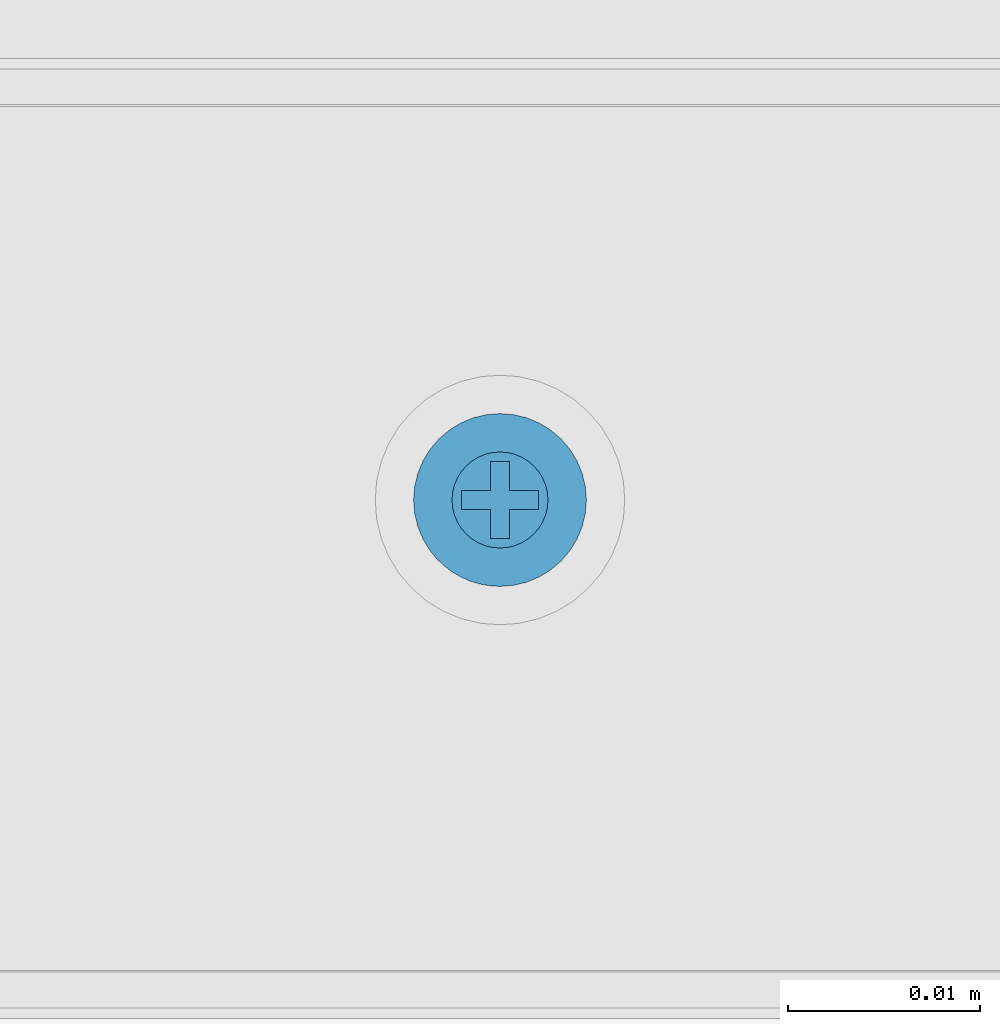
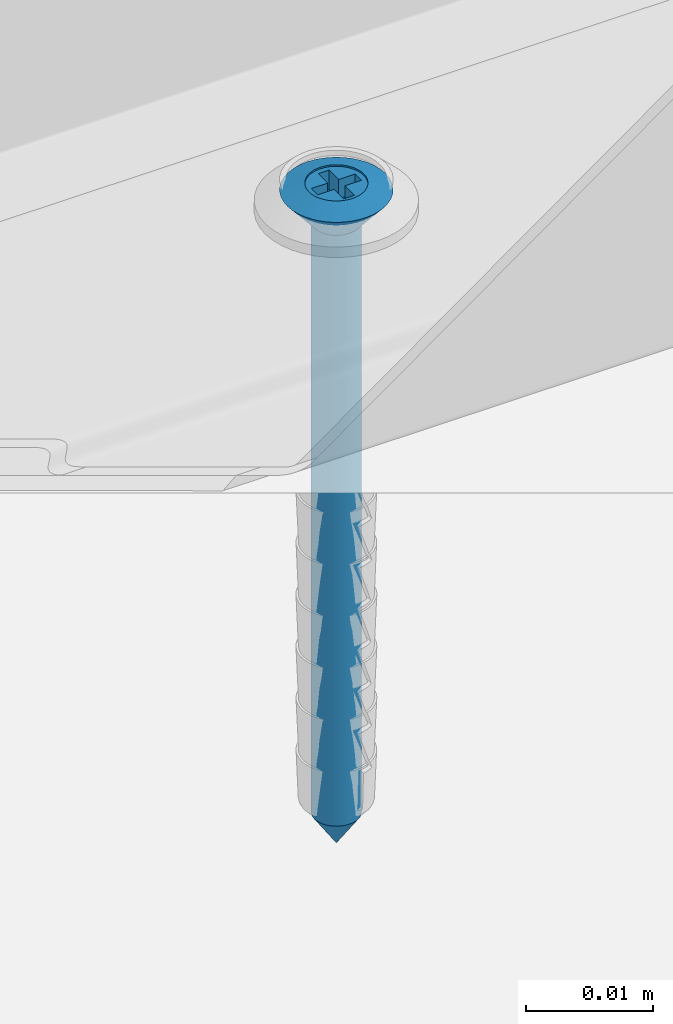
# One storey, part 38 of 38: 1 wall.
"""IFC2X3 building model written with IfcOpenShell, lengths in millimetres."""

from ifc_helpers import new_model, entity, si_unit, converted_unit, direction, frame, origin, origin_with_axes, place, context, project, spatial, faceted_brep, element, save


model = new_model("IFC2X3")

# Units and contexts
model_context = context("Model", 3, precision=1e-05, world=origin(), true_north=direction((0.0, 1.0, 0.0)))
ifc_project = project(units=[si_unit("LENGTHUNIT", "METRE", prefix="MILLI"), si_unit("AREAUNIT", "SQUARE_METRE"), si_unit("VOLUMEUNIT", "CUBIC_METRE"), converted_unit("PLANEANGLEUNIT", "DEGREE", entity("IfcPlaneAngleMeasure", 0.01745), si_unit("PLANEANGLEUNIT", "RADIAN"), dimensions=[0, 0, 0, 0, 0, 0, 0]), si_unit("SOLIDANGLEUNIT", "STERADIAN"), si_unit("MASSUNIT", "GRAM"), si_unit("TIMEUNIT", "SECOND"), si_unit("THERMODYNAMICTEMPERATUREUNIT", "DEGREE_CELSIUS"), si_unit("LUMINOUSINTENSITYUNIT", "LUMEN")], contexts=[model_context])

# Site, building, storey
site_placement = place(None, origin_with_axes())
site = spatial("IfcSite", under=ifc_project, at=site_placement, Name="Default Site", CompositionType="ELEMENT")
building_placement = place(site_placement, origin_with_axes())
building = spatial("IfcBuilding", under=site, at=building_placement, Name="Default Building", CompositionType="ELEMENT")
storey_placement = place(building_placement, origin_with_axes())
storey = spatial("IfcBuildingStorey", under=building, at=storey_placement, Name="Default Building Storey", CompositionType="ELEMENT", Elevation=0.0)

# Wall
wall_placement = place(storey_placement, frame((5002.45437008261, 5452.424146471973, 8.390395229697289), z_axis=(7.620176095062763e-14, -6.858158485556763e-13, 1.0), x_axis=(1.0, -9.714451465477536e-17, -7.620176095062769e-14)))
element("IfcWall", 1, at=wall_placement, inside=storey, Name="Kołek rozporowy min. fi 6", context=model_context, shape_type="Brep", body=[
    faceted_brep([(-1438.31414949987, -3453.283223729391, -0.4642567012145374), (-1435.814149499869, -3453.283223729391, -3.464256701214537), (-1435.78952618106, -3452.97035479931, -3.464256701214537), (-1438.258747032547, -3452.57926863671, -0.4642567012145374), (-1435.71626253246, -3452.665189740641, -3.464256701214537), (-1438.093903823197, -3451.892647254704, -0.4642567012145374), (-1435.596162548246, -3452.375242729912, -3.464256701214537), (-1437.823678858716, -3451.240266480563, -0.4642567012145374), (-1435.432183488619, -3452.107653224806, -3.464256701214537), (-1437.454725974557, -3450.638190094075, -0.4642567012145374), (-1435.228363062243, -3451.869010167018, -3.464256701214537), (-1436.996130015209, -3450.101243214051, -0.4642567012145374), (-1434.989720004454, -3451.665189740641, -3.464256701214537), (-1436.459183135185, -3449.642647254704, -0.4642567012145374), (-1434.722130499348, -3451.501210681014, -3.464256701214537), (-1435.857106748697, -3449.273694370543, -0.4642567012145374), (-1434.432183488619, -3451.381110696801, -3.464256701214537), (-1435.204725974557, -3449.003469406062, -0.4642567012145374), (-1434.12701842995, -3451.307847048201, -3.464256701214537), (-1434.51810459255, -3448.838626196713, -0.4642567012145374), (-1433.814149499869, -3451.283223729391, -3.464256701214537), (-1433.814149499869, -3448.783223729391, -0.4642567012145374), (-1433.501280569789, -3451.307847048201, -3.464256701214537), (-1433.110194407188, -3448.838626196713, -0.4642567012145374), (-1433.19611551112, -3451.381110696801, -3.464256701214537), (-1432.423573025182, -3449.003469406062, -0.4642567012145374), (-1432.906168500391, -3451.501210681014, -3.464256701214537), (-1431.771192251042, -3449.273694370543, -0.4642567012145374), (-1432.638578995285, -3451.665189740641, -3.464256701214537), (-1431.169115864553, -3449.642647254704, -0.4642567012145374), (-1432.399935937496, -3451.869010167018, -3.464256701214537), (-1430.63216898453, -3450.101243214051, -0.4642567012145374), (-1432.196115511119, -3452.107653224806, -3.464256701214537), (-1430.173573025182, -3450.638190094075, -0.4642567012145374), (-1432.032136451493, -3452.375242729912, -3.464256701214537), (-1429.804620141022, -3451.240266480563, -0.4642567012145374), (-1431.912036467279, -3452.665189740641, -3.464256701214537), (-1429.534395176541, -3451.892647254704, -0.4642567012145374), (-1431.838772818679, -3453.596092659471, -3.464256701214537), (-1429.369551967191, -3453.987178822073, -0.4642567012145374), (-1429.314149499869, -3453.283223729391, -0.4642567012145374), (-1431.81414949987, -3453.283223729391, -3.464256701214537), (-1429.369551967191, -3452.57926863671, -0.4642567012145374), (-1431.838772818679, -3452.97035479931, -3.464256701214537), (-1431.912036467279, -3453.901257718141, -3.464256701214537), (-1429.534395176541, -3454.673800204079, -0.4642567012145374), (-1432.032136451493, -3454.19120472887, -3.464256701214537), (-1429.804620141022, -3455.326180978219, -0.4642567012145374), (-1432.196115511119, -3454.458794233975, -3.464256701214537), (-1430.173573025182, -3455.928257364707, -0.4642567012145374), (-1432.399935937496, -3454.697437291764, -3.464256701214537), (-1430.63216898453, -3456.465204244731, -0.4642567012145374), (-1432.638578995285, -3454.901257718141, -3.464256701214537), (-1431.169115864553, -3456.923800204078, -0.4642567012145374), (-1432.906168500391, -3455.065236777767, -3.464256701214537), (-1431.771192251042, -3457.292753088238, -0.4642567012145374), (-1433.19611551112, -3455.185336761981, -3.464256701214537), (-1432.423573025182, -3457.562978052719, -0.4642567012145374), (-1433.501280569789, -3455.258600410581, -3.464256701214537), (-1433.110194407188, -3457.727821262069, -0.4642567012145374), (-1433.814149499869, -3455.283223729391, -3.464256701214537), (-1433.814149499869, -3457.783223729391, -0.4642567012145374), (-1434.34306778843, -3457.752031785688, -0.4642567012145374), (-1434.12701842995, -3455.258600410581, -3.464256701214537), (-1434.432183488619, -3455.185336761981, -3.464256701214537), (-1434.864653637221, -3457.658888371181, -0.4642567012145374), (-1435.371676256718, -3457.505084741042, -0.4642567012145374), (-1434.722130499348, -3455.065236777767, -3.464256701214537), (-1435.857106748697, -3457.292753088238, -0.4642567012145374), (-1434.989720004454, -3454.901257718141, -3.464256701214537), (-1435.228363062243, -3454.697437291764, -3.464256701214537), (-1436.314215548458, -3457.024836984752, -0.4642567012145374), (-1436.736665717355, -3456.705050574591, -0.4642567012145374), (-1437.11860079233, -3456.337827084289, -0.4642567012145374), (-1437.454725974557, -3455.928257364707, -0.4642567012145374), (-1435.432183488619, -3454.458794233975, -3.464256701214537), (-1435.596162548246, -3454.19120472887, -3.464256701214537), (-1437.823678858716, -3455.326180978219, -0.4642567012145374), (-1435.71626253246, -3453.901257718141, -3.464256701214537), (-1438.093903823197, -3454.673800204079, -0.4642567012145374), (-1435.78952618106, -3453.596092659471, -3.464256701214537), (-1438.258747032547, -3453.987178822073, -0.4642567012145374), (-1434.205235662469, -3455.752444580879, 0.2007375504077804), (-1433.814149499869, -3455.78322372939, 0.2007375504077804), (-1434.586691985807, -3455.660865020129, 0.2007375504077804), (-1434.949125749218, -3455.510740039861, 0.2007375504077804), (-1435.283612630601, -3455.305766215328, 0.2007375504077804), (-1435.581916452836, -3455.050990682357, 0.2007375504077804), (-1435.836691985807, -3454.752686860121, 0.2007375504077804), (-1436.04166581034, -3454.41819997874, 0.2007375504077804), (-1436.191790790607, -3454.055766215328, 0.2007375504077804), (-1436.283370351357, -3453.674309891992, 0.2007375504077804), (-1436.314149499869, -3453.283223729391, 0.2007375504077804), (-1436.283370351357, -3452.892137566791, 0.2007375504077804), (-1436.191790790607, -3452.510681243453, 0.2007375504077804), (-1436.04166581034, -3452.148247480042, 0.2007375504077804), (-1435.836691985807, -3451.81376059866, 0.200737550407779), (-1435.581916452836, -3451.515456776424, 0.2007375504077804), (-1435.283612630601, -3451.260681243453, 0.2007375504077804), (-1434.949125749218, -3451.05570741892, 0.2007375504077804), (-1434.586691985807, -3450.905582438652, 0.2007375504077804), (-1433.423063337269, -3450.814002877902, 0.2007375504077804), (-1433.814149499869, -3450.783223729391, 0.2007375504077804), (-1434.205235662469, -3450.814002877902, 0.2007375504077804), (-1433.041607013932, -3450.905582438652, 0.2007375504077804), (-1432.67917325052, -3451.05570741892, 0.2007375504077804), (-1432.344686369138, -3451.260681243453, 0.2007375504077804), (-1432.046382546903, -3451.515456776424, 0.2007375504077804), (-1431.791607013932, -3451.81376059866, 0.2007375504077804), (-1431.586633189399, -3452.148247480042, 0.2007375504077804), (-1431.436508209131, -3452.510681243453, 0.2007375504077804), (-1431.344928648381, -3452.892137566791, 0.2007375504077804), (-1431.314149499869, -3453.283223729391, 0.2007375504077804), (-1431.344928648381, -3453.674309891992, 0.2007375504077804), (-1431.436508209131, -3454.055766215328, 0.2007375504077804), (-1431.586633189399, -3454.41819997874, 0.2007375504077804), (-1431.791607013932, -3454.752686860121, 0.2007375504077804), (-1432.046382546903, -3455.050990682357, 0.2007375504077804), (-1432.344686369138, -3455.305766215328, 0.2007375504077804), (-1432.67917325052, -3455.510740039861, 0.2007375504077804), (-1433.041607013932, -3455.660865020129, 0.2007375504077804), (-1433.423063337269, -3455.752444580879, 0.2007375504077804), (-1433.814149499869, -3453.283223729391, -63.46425670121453), (-1435.789526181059, -3452.97035479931, -60.46425670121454), (-1435.814149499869, -3453.283223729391, -60.46425670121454), (-1435.716262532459, -3452.665189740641, -60.46425670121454), (-1435.596162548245, -3452.375242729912, -60.46425670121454), (-1435.432183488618, -3452.107653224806, -60.46425670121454), (-1435.228363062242, -3451.869010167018, -60.46425670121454), (-1434.989720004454, -3451.665189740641, -60.46425670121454), (-1434.722130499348, -3451.501210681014, -60.46425670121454), (-1434.432183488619, -3451.381110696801, -60.46425670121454), (-1434.127018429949, -3451.307847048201, -60.46425670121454), (-1433.814149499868, -3451.283223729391, -60.46425670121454), (-1433.501280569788, -3451.307847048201, -60.46425670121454), (-1433.196115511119, -3451.381110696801, -60.46425670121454), (-1432.90616850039, -3451.501210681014, -60.46425670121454), (-1432.638578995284, -3451.665189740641, -60.46425670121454), (-1432.399935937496, -3451.869010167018, -60.46425670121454), (-1432.196115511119, -3452.107653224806, -60.46425670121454), (-1432.032136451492, -3452.375242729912, -60.46425670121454), (-1431.912036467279, -3452.665189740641, -60.46425670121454), (-1431.838772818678, -3452.97035479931, -60.46425670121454), (-1431.814149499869, -3453.283223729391, -60.46425670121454), (-1431.838772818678, -3453.596092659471, -60.46425670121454), (-1431.912036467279, -3453.901257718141, -60.46425670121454), (-1432.032136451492, -3454.19120472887, -60.46425670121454), (-1432.196115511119, -3454.458794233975, -60.46425670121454), (-1432.399935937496, -3454.697437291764, -60.46425670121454), (-1432.638578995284, -3454.901257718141, -60.46425670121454), (-1432.90616850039, -3455.065236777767, -60.46425670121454), (-1433.196115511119, -3455.185336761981, -60.46425670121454), (-1433.501280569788, -3455.258600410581, -60.46425670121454), (-1433.814149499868, -3455.283223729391, -60.46425670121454), (-1434.127018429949, -3455.258600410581, -60.46425670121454), (-1434.432183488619, -3455.185336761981, -60.46425670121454), (-1434.722130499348, -3455.065236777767, -60.46425670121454), (-1434.989720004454, -3454.901257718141, -60.46425670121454), (-1435.228363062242, -3454.697437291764, -60.46425670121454), (-1435.432183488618, -3454.458794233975, -60.46425670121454), (-1435.596162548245, -3454.19120472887, -60.46425670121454), (-1435.716262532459, -3453.901257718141, -60.46425670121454), (-1435.789526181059, -3453.596092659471, -60.46425670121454), (-1435.814149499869, -3453.783223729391, 0.04999999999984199), (-1436.04166581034, -3454.41819997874, 0.04999999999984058), (-1436.191790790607, -3454.055766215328, 0.04999999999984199), (-1435.814149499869, -3452.783223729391, 0.04999999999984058), (-1434.314149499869, -3453.783223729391, 0.04999999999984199), (-1434.314149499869, -3455.28322372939, 0.04999999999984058), (-1433.314149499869, -3455.28322372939, 0.04999999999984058), (-1433.314149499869, -3453.783223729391, 0.04999999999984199), (-1431.814149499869, -3453.783223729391, 0.04999999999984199), (-1431.814149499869, -3452.783223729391, 0.04999999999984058), (-1433.314149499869, -3452.783223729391, 0.04999999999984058), (-1433.314149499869, -3451.283223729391, 0.04999999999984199), (-1434.314149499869, -3451.283223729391, 0.04999999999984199), (-1434.314149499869, -3452.783223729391, 0.04999999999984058), (-1436.283370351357, -3453.674309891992, 0.04999999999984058), (-1436.314149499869, -3453.283223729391, 0.04999999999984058), (-1436.283370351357, -3452.892137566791, 0.04999999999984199), (-1436.191790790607, -3452.510681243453, 0.04999999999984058), (-1436.04166581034, -3452.148247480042, 0.04999999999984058), (-1435.836691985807, -3451.81376059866, 0.04999999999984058), (-1435.581916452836, -3451.515456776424, 0.04999999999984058), (-1435.283612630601, -3451.260681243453, 0.04999999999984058), (-1434.949125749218, -3451.05570741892, 0.04999999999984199), (-1434.586691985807, -3450.905582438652, 0.04999999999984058), (-1434.205235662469, -3450.814002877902, 0.04999999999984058), (-1433.814149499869, -3450.783223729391, 0.04999999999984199), (-1433.423063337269, -3450.814002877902, 0.04999999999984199), (-1433.041607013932, -3450.905582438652, 0.04999999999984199), (-1432.67917325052, -3451.05570741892, 0.04999999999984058), (-1432.344686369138, -3451.260681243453, 0.04999999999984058), (-1432.046382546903, -3451.515456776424, 0.04999999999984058), (-1431.791607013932, -3451.81376059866, 0.04999999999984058), (-1431.586633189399, -3452.148247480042, 0.04999999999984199), (-1431.436508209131, -3452.510681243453, 0.04999999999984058), (-1431.344928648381, -3452.892137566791, 0.04999999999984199), (-1431.314149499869, -3453.283223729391, 0.04999999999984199), (-1431.344928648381, -3453.674309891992, 0.04999999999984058), (-1431.436508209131, -3454.055766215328, 0.04999999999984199), (-1431.586633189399, -3454.41819997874, 0.04999999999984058), (-1431.791607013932, -3454.752686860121, 0.04999999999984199), (-1432.046382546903, -3455.050990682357, 0.04999999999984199), (-1432.344686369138, -3455.305766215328, 0.04999999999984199), (-1432.67917325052, -3455.510740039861, 0.04999999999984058), (-1433.041607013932, -3455.660865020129, 0.04999999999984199), (-1433.423063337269, -3455.752444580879, 0.04999999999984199), (-1433.814149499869, -3455.78322372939, 0.04999999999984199), (-1434.205235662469, -3455.752444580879, 0.04999999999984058), (-1434.586691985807, -3455.660865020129, 0.04999999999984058), (-1434.949125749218, -3455.510740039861, 0.04999999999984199), (-1435.283612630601, -3455.305766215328, 0.04999999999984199), (-1435.581916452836, -3455.050990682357, 0.04999999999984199), (-1435.836691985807, -3454.752686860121, 0.04999999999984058), (-1434.314149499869, -3452.783223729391, -1.79926244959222), (-1434.314149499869, -3451.283223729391, -1.799262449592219), (-1433.314149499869, -3451.283223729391, -1.799262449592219), (-1433.314149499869, -3452.783223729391, -1.79926244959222), (-1431.81414949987, -3452.783223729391, -1.79926244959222), (-1431.81414949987, -3453.783223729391, -1.799262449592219), (-1433.314149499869, -3453.783223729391, -1.799262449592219), (-1433.314149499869, -3455.28322372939, -1.79926244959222), (-1434.314149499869, -3455.28322372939, -1.79926244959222), (-1434.314149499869, -3453.783223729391, -1.799262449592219), (-1435.814149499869, -3453.783223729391, -1.799262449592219), (-1435.814149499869, -3452.783223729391, -1.79926244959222)], [[[0, 1, 2, 3]], [[4, 5, 3, 2]], [[6, 7, 5, 4]], [[7, 6, 8, 9]], [[10, 11, 9, 8]], [[11, 10, 12, 13]], [[14, 15, 13, 12]], [[16, 17, 15, 14]], [[17, 16, 18, 19]], [[20, 21, 19, 18]], [[21, 20, 22, 23]], [[24, 25, 23, 22]], [[26, 27, 25, 24]], [[27, 26, 28, 29]], [[30, 31, 29, 28]], [[31, 30, 32, 33]], [[34, 35, 33, 32]], [[36, 37, 35, 34]], [[38, 39, 40, 41]], [[41, 40, 42, 43]], [[37, 36, 43, 42]], [[44, 45, 39, 38]], [[46, 47, 45, 44]], [[47, 46, 48, 49]], [[50, 51, 49, 48]], [[51, 50, 52, 53]], [[54, 55, 53, 52]], [[56, 57, 55, 54]], [[57, 56, 58, 59]], [[60, 61, 59, 58]], [[62, 61, 63]], [[61, 60, 63]], [[63, 64, 62]], [[64, 65, 62]], [[66, 65, 64]], [[64, 67, 66]], [[67, 68, 66]], [[69, 70, 71]], [[70, 72, 71]], [[71, 68, 69]], [[68, 67, 69]], [[70, 73, 72]], [[74, 73, 75]], [[73, 70, 75]], [[76, 77, 74, 75]], [[78, 79, 77, 76]], [[79, 78, 80, 81]], [[1, 0, 81, 80]], [[82, 83, 62]], [[83, 61, 62]], [[62, 65, 82]], [[65, 84, 82]], [[66, 68, 84]], [[68, 85, 84]], [[84, 65, 66]], [[86, 85, 71]], [[85, 68, 71]], [[72, 73, 87]], [[87, 86, 72]], [[86, 71, 72]], [[88, 87, 74]], [[87, 73, 74]], [[77, 89, 88, 74]], [[79, 90, 89, 77]], [[90, 79, 81, 91]], [[0, 92, 91, 81]], [[92, 0, 3, 93]], [[5, 94, 93, 3]], [[7, 95, 94, 5]], [[95, 7, 9, 96]], [[11, 97, 96, 9]], [[97, 11, 13, 98]], [[15, 99, 98, 13]], [[17, 100, 99, 15]], [[23, 101, 102, 21]], [[21, 102, 103, 19]], [[100, 17, 19, 103]], [[25, 104, 101, 23]], [[27, 105, 104, 25]], [[105, 27, 29, 106]], [[31, 107, 106, 29]], [[107, 31, 33, 108]], [[35, 109, 108, 33]], [[37, 110, 109, 35]], [[110, 37, 42, 111]], [[40, 112, 111, 42]], [[112, 40, 39, 113]], [[45, 114, 113, 39]], [[47, 115, 114, 45]], [[115, 47, 49, 116]], [[51, 117, 116, 49]], [[117, 51, 53, 118]], [[55, 119, 118, 53]], [[57, 120, 119, 55]], [[120, 57, 59, 121]], [[61, 83, 121, 59]], [[122, 123, 124]], [[122, 125, 123]], [[122, 126, 125]], [[127, 126, 122]], [[122, 128, 127]], [[129, 128, 122]], [[122, 130, 129]], [[122, 131, 130]], [[132, 131, 122]], [[122, 133, 132]], [[134, 133, 122]], [[122, 135, 134]], [[122, 136, 135]], [[137, 136, 122]], [[122, 138, 137]], [[139, 138, 122]], [[122, 140, 139]], [[122, 141, 140]], [[142, 141, 122]], [[122, 143, 142]], [[144, 143, 122]], [[122, 145, 144]], [[122, 146, 145]], [[147, 146, 122]], [[122, 148, 147]], [[149, 148, 122]], [[122, 150, 149]], [[122, 151, 150]], [[152, 151, 122]], [[122, 153, 152]], [[154, 153, 122]], [[122, 155, 154]], [[122, 156, 155]], [[157, 156, 122]], [[122, 158, 157]], [[159, 158, 122]], [[122, 160, 159]], [[122, 161, 160]], [[162, 161, 122]], [[124, 162, 122]], [[1, 124, 123, 2]], [[125, 4, 2, 123]], [[126, 6, 4, 125]], [[6, 126, 127, 8]], [[128, 10, 8, 127]], [[10, 128, 129, 12]], [[130, 14, 12, 129]], [[131, 16, 14, 130]], [[16, 131, 132, 18]], [[133, 20, 18, 132]], [[20, 133, 134, 22]], [[135, 24, 22, 134]], [[136, 26, 24, 135]], [[26, 136, 137, 28]], [[138, 30, 28, 137]], [[30, 138, 139, 32]], [[140, 34, 32, 139]], [[141, 36, 34, 140]], [[144, 38, 41, 143]], [[143, 41, 43, 142]], [[36, 141, 142, 43]], [[145, 44, 38, 144]], [[146, 46, 44, 145]], [[46, 146, 147, 48]], [[148, 50, 48, 147]], [[50, 148, 149, 52]], [[150, 54, 52, 149]], [[151, 56, 54, 150]], [[56, 151, 152, 58]], [[153, 60, 58, 152]], [[60, 153, 154, 63]], [[155, 64, 63, 154]], [[156, 67, 64, 155]], [[67, 156, 157, 69]], [[158, 70, 69, 157]], [[70, 158, 159, 75]], [[160, 76, 75, 159]], [[161, 78, 76, 160]], [[78, 161, 162, 80]], [[124, 1, 80, 162]], [[163, 164, 165, 166]], [[163, 167, 168, 169, 170, 171, 172, 173, 174, 175, 176, 166, 165, 177, 178, 179, 180, 181, 182, 183, 184, 185, 186, 187, 188, 189, 190, 191, 192, 193, 194, 195, 196, 197, 198, 199, 200, 201, 202, 203, 204, 205, 206, 207, 208, 209, 210, 211, 212, 213, 214, 164]], [[199, 198, 112, 113]], [[113, 114, 200, 199]], [[114, 115, 201, 200]], [[202, 201, 115, 116]], [[116, 117, 203, 202]], [[204, 203, 117, 118]], [[118, 119, 205, 204]], [[119, 120, 206, 205]], [[207, 206, 120, 121]], [[121, 83, 208, 207]], [[209, 208, 83, 82]], [[82, 84, 210, 209]], [[84, 85, 211, 210]], [[212, 211, 85, 86]], [[86, 87, 213, 212]], [[214, 213, 87, 88]], [[88, 89, 164, 214]], [[89, 90, 165, 164]], [[92, 93, 179, 178]], [[91, 92, 178, 177]], [[177, 165, 90, 91]], [[93, 94, 180, 179]], [[94, 95, 181, 180]], [[182, 181, 95, 96]], [[96, 97, 183, 182]], [[184, 183, 97, 98]], [[98, 99, 185, 184]], [[99, 100, 186, 185]], [[187, 186, 100, 103]], [[103, 102, 188, 187]], [[189, 188, 102, 101]], [[101, 104, 190, 189]], [[104, 105, 191, 190]], [[192, 191, 105, 106]], [[106, 107, 193, 192]], [[194, 193, 107, 108]], [[108, 109, 195, 194]], [[109, 110, 196, 195]], [[197, 196, 110, 111]], [[111, 112, 198, 197]], [[215, 216, 217, 218, 219, 220, 221, 222, 223, 224, 225, 226]], [[216, 175, 174, 217]], [[215, 176, 175, 216]], [[226, 166, 176, 215]], [[225, 163, 166, 226]], [[224, 167, 163, 225]], [[223, 168, 167, 224]], [[222, 169, 168, 223]], [[221, 170, 169, 222]], [[220, 171, 170, 221]], [[219, 172, 171, 220]], [[218, 173, 172, 219]], [[217, 174, 173, 218]]]),
])

save(model, "model.ifc")
